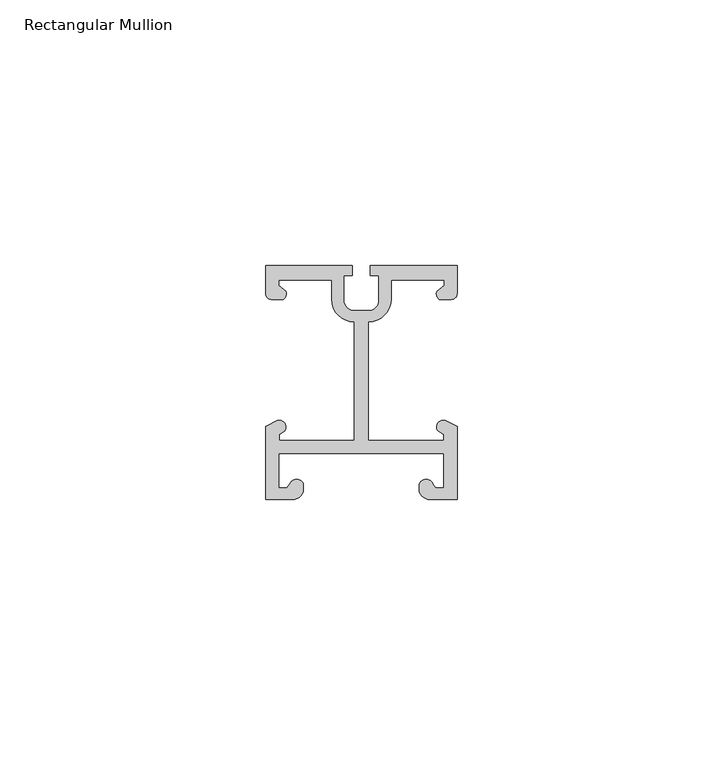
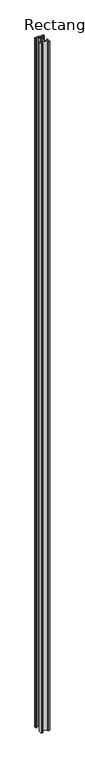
"""IFC4 building model written with IfcOpenShell, lengths in millimetres: member geometry, Rectangular Mullion : NLRS_21_CWM_drager LD.0440 - rechts_Storax."""

from ifc_helpers import new_model, si_unit, point, frame, frame_2d, origin, place, context, project, spatial, polyline, circle_curve, trimmed, segment, composite_curve, outline, extrude, source, transform, mapped, element, save


def rectangular_mullion_5e0e8e0a(model_context):
    return source(origin(), model_context, "Body", "SweptSolid", [
        extrude(outline(composite_curve([segment(polyline([(-86.0, -6.3052023), (-86.0, -1.0), (-69.7007911, -1.0), (-69.7007911, -2.8614608), (-71.3098873, -2.8614608), (-71.3098873, -7.4387929)]), True, "CONTINUOUS"), segment(trimmed(circle_curve(frame_2d((-69.2477445, -7.4387929)), 2.0621428), [point((-71.3098873, -7.4387929))], [point((-69.2477445, -9.5009356))], True, "CARTESIAN"), True, "CONTINUOUS"), segment(polyline([(-69.2477445, -9.5009356), (-66.7522555, -9.5009356)]), True, "CONTINUOUS"), segment(trimmed(circle_curve(frame_2d((-66.7522555, -7.4387929)), 2.0621428), [point((-66.7522555, -9.5009356))], [point((-64.6901127, -7.4387929))], True, "CARTESIAN"), True, "CONTINUOUS"), segment(polyline([(-64.6901127, -7.4387929), (-64.6901127, -2.8614608), (-66.2992089, -2.8614608), (-66.2992089, -1.0), (-50.0, -1.0), (-50.0, -6.3052023)]), True, "CONTINUOUS"), segment(trimmed(circle_curve(frame_2d((-51.0607188, -6.3052023)), 1.0607188), [point((-50.0, -6.3052023))], [point((-51.0607188, -7.3659211))], False, "CARTESIAN"), True, "CONTINUOUS"), segment(polyline([(-51.0607188, -7.3659211), (-53.3289168, -7.3659211)]), True, "CONTINUOUS"), segment(trimmed(circle_curve(frame_2d((-52.5236107, -6.2941519)), 1.3405996), [point((-53.3289168, -7.3659211))], [point((-53.7569109, -5.7686256))], False, "CARTESIAN"), True, "CONTINUOUS"), segment(polyline([(-53.7569109, -5.7686256), (-52.4146446, -4.7934121), (-52.4146446, -3.7019722), (-62.4146446, -3.7019722), (-62.4146446, -7.3659211)]), True, "CONTINUOUS"), segment(trimmed(circle_curve(frame_2d((-66.6570939, -7.3659211)), 4.2424493), [point((-62.4146446, -7.3659211))], [point((-66.6570939, -11.6083704))], False, "CARTESIAN"), True, "CONTINUOUS"), segment(polyline([(-66.6570939, -11.6083704), (-66.6570939, -33.9484561), (-52.5213309, -33.9484561), (-52.5213309, -32.7842379), (-53.5626009, -32.1830604)]), True, "CONTINUOUS"), segment(trimmed(circle_curve(frame_2d((-52.54141, -31.4212831)), 1.2740234), [point((-53.5626009, -32.1830604))], [point((-52.1793417, -30.1997913))], False, "CARTESIAN"), True, "CONTINUOUS"), segment(polyline([(-52.1793417, -30.1997913), (-50.0, -31.2742706), (-50.0, -45.0), (-55.5130836, -45.0)]), True, "CONTINUOUS"), segment(trimmed(circle_curve(frame_2d((-55.0734746, -42.8995012)), 2.1460082), [point((-55.5130836, -45.0))], [point((-57.0805242, -43.6591742))], False, "CARTESIAN"), True, "CONTINUOUS"), segment(polyline([(-57.0805242, -43.6591742), (-57.0805242, -42.1270559)]), True, "CONTINUOUS"), segment(trimmed(circle_curve(frame_2d((-55.8139657, -42.6211046)), 1.3595053), [point((-57.0805242, -42.1270559))], [point((-54.5474071, -42.1270559))], False, "CARTESIAN"), True, "CONTINUOUS"), segment(polyline([(-54.5474071, -42.1270559), (-53.9602598, -42.8785701), (-52.4671909, -42.8785701), (-52.4671909, -36.3732865), (-83.5328091, -36.3732865), (-83.5328091, -42.8785701), (-82.0397402, -42.8785701), (-81.4525929, -42.1270559)]), True, "CONTINUOUS"), segment(trimmed(circle_curve(frame_2d((-80.1860343, -42.6211046)), 1.3595053), [point((-81.4525929, -42.1270559))], [point((-78.9194758, -42.1270559))], False, "CARTESIAN"), True, "CONTINUOUS"), segment(polyline([(-78.9194758, -42.1270559), (-78.9194758, -43.6591742)]), True, "CONTINUOUS"), segment(trimmed(circle_curve(frame_2d((-80.9265254, -42.8995012)), 2.1460082), [point((-78.9194758, -43.6591742))], [point((-80.4869164, -45.0))], False, "CARTESIAN"), True, "CONTINUOUS"), segment(polyline([(-80.4869164, -45.0), (-86.0, -45.0), (-86.0, -31.2742706), (-83.8206583, -30.1997913)]), True, "CONTINUOUS"), segment(trimmed(circle_curve(frame_2d((-83.45859, -31.4212831)), 1.2740234), [point((-83.8206583, -30.1997913))], [point((-82.4373991, -32.1830604))], False, "CARTESIAN"), True, "CONTINUOUS"), segment(polyline([(-82.4373991, -32.1830604), (-83.4786691, -32.7842379), (-83.4786691, -33.9484561), (-69.3429061, -33.9484561), (-69.3429061, -11.6083704)]), True, "CONTINUOUS"), segment(trimmed(circle_curve(frame_2d((-69.3429061, -7.3659211)), 4.2424493), [point((-69.3429061, -11.6083704))], [point((-73.5853554, -7.3659211))], False, "CARTESIAN"), True, "CONTINUOUS"), segment(polyline([(-73.5853554, -7.3659211), (-73.5853554, -3.7019722), (-83.5853554, -3.7019722), (-83.5853554, -4.7934121), (-82.2430891, -5.7686256)]), True, "CONTINUOUS"), segment(trimmed(circle_curve(frame_2d((-83.4763893, -6.2941519)), 1.3405996), [point((-82.2430891, -5.7686256))], [point((-82.6710832, -7.3659211))], False, "CARTESIAN"), True, "CONTINUOUS"), segment(polyline([(-82.6710832, -7.3659211), (-84.9392812, -7.3659211)]), True, "CONTINUOUS"), segment(trimmed(circle_curve(frame_2d((-84.9392812, -6.3052023)), 1.0607188), [point((-84.9392812, -7.3659211))], [point((-86.0, -6.3052023))], False, "CARTESIAN"), True, "CONTINUOUS")], self_intersect=False)), frame((0.0, 0.0, -3000.0), z_axis=(0.0, 0.0, 1.0), x_axis=(1.0, 0.0, 0.0)), (0.0, 0.0, 1.0), 3000.0),
    ])


if __name__ == "__main__":
    model = new_model("IFC4")
    model_context = context("Model", 3, world=origin())
    ifc_project = project(units=[si_unit("LENGTHUNIT", "METRE", prefix="MILLI")], contexts=[model_context])
    site = spatial("IfcSite", under=ifc_project)
    building = spatial("IfcBuilding", under=site)
    placement = place(None, origin())
    rectangular_mullion_shape = rectangular_mullion_5e0e8e0a(model_context)
    element("IfcMember", 1, ObjectType="Rectangular Mullion : NLRS_21_CWM_drager LD.0440 - rechts_Storax", at=placement, inside=building, context=model_context, shape_type="MappedRepresentation", body=[
        mapped(rectangular_mullion_shape, transform((0.0, 0.0, 0.0), x_axis=(1.0, 0.0, 0.0), y_axis=(0.0, 1.0, 0.0), z_axis=(0.0, 0.0, 1.0))),
    ])
    save(model, "model.ifc")
